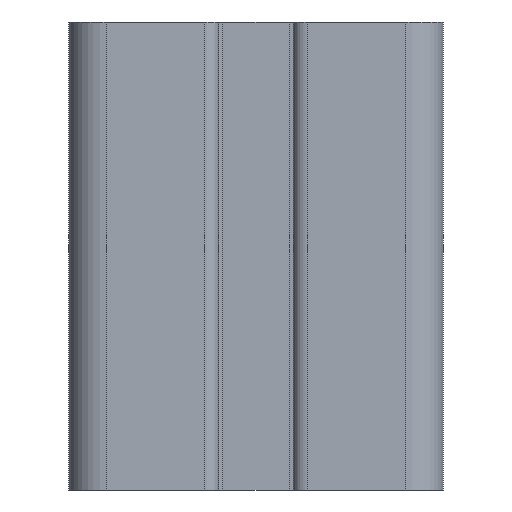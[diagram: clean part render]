
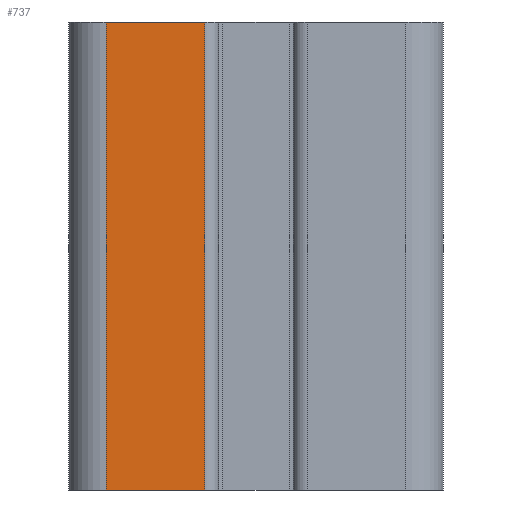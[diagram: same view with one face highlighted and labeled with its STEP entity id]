
A CAD part, left-side view. The second image highlights one B-rep face of the part: STEP entity #737.
In plain terms, the highlighted planar face has unit normal (-1, 0, 0).
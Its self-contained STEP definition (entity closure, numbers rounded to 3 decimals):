
#131 = ORIENTED_EDGE ( 'NONE', *, *, #3513, .T. ) ;
#388 = CARTESIAN_POINT ( 'NONE',  ( 0., 36., -30. ) ) ;
#418 = CARTESIAN_POINT ( 'NONE',  ( 0., 36., -30. ) ) ;
#540 = VERTEX_POINT ( 'NONE', #4058 ) ;
#733 = LINE ( 'NONE', #4082, #2821 ) ;
#737 = ADVANCED_FACE ( 'NONE', ( #2047 ), #4531, .T. ) ;
#809 = EDGE_CURVE ( 'NONE', #3061, #540, #2849, .T. ) ;
#1174 = CARTESIAN_POINT ( 'NONE',  ( 0., 25.5, -30. ) ) ;
#1299 = VERTEX_POINT ( 'NONE', #1419 ) ;
#1352 = VECTOR ( 'NONE', #4336, 1000. ) ;
#1419 = CARTESIAN_POINT ( 'NONE',  ( 0., 36., -30. ) ) ;
#1751 = DIRECTION ( 'NONE',  ( 0., -1., 0. ) ) ;
#1752 = AXIS2_PLACEMENT_3D ( 'NONE', #388, #2186, #2494 ) ;
#1863 = EDGE_CURVE ( 'NONE', #1997, #540, #2224, .T. ) ;
#1997 = VERTEX_POINT ( 'NONE', #1174 ) ;
#2044 = DIRECTION ( 'NONE',  ( 0., 0., 1. ) ) ;
#2047 = FACE_OUTER_BOUND ( 'NONE', #2502, .T. ) ;
#2119 = ORIENTED_EDGE ( 'NONE', *, *, #809, .F. ) ;
#2126 = CARTESIAN_POINT ( 'NONE',  ( 0., 36., 20. ) ) ;
#2186 = DIRECTION ( 'NONE',  ( -1., 0., 0. ) ) ;
#2224 = LINE ( 'NONE', #3994, #4182 ) ;
#2378 = LINE ( 'NONE', #418, #1352 ) ;
#2494 = DIRECTION ( 'NONE',  ( 0., -1., 0. ) ) ;
#2502 = EDGE_LOOP ( 'NONE', ( #2119, #4101, #131, #2577 ) ) ;
#2577 = ORIENTED_EDGE ( 'NONE', *, *, #1863, .T. ) ;
#2720 = VECTOR ( 'NONE', #3881, 1000. ) ;
#2821 = VECTOR ( 'NONE', #1751, 1000. ) ;
#2849 = LINE ( 'NONE', #5033, #2720 ) ;
#3061 = VERTEX_POINT ( 'NONE', #2126 ) ;
#3513 = EDGE_CURVE ( 'NONE', #1299, #1997, #733, .T. ) ;
#3768 = EDGE_CURVE ( 'NONE', #1299, #3061, #2378, .T. ) ;
#3881 = DIRECTION ( 'NONE',  ( 0., -1., 0. ) ) ;
#3994 = CARTESIAN_POINT ( 'NONE',  ( 0., 25.5, -30. ) ) ;
#4058 = CARTESIAN_POINT ( 'NONE',  ( 0., 25.5, 20. ) ) ;
#4082 = CARTESIAN_POINT ( 'NONE',  ( 0., 36., -30. ) ) ;
#4101 = ORIENTED_EDGE ( 'NONE', *, *, #3768, .F. ) ;
#4182 = VECTOR ( 'NONE', #2044, 1000. ) ;
#4336 = DIRECTION ( 'NONE',  ( 0., 0., 1. ) ) ;
#4531 = PLANE ( 'NONE',  #1752 ) ;
#5033 = CARTESIAN_POINT ( 'NONE',  ( 0., 36., 20. ) ) ;
